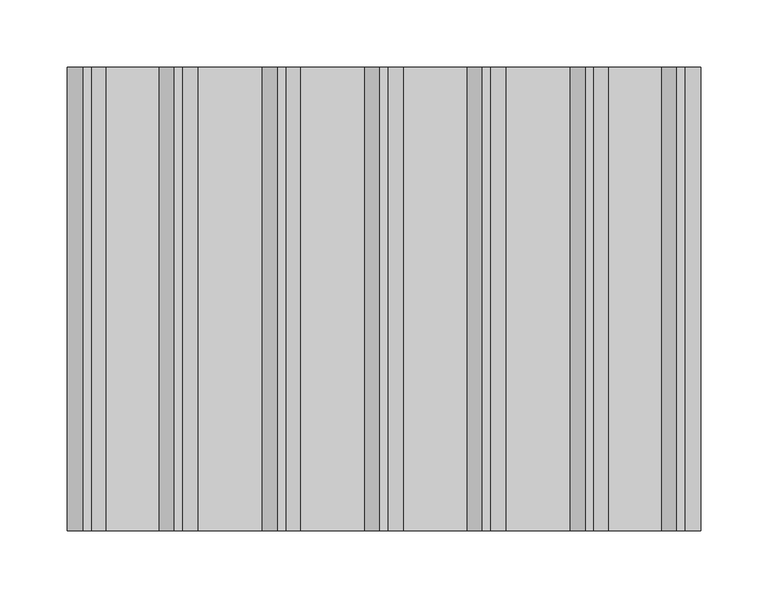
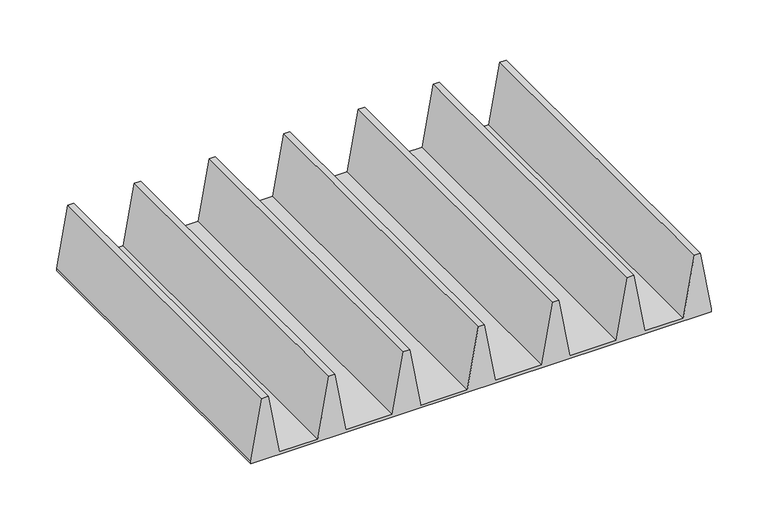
"""IFC4 building model written with IfcOpenShell, lengths in millimetres: furniture geometry."""

from ifc_helpers import new_model, si_unit, frame, origin, place, context, project, spatial, polyline, outline, extrude, source, transform, mapped, element, save


def furniture_da176630(model_context):
    return source(origin(), model_context, "Body", "SweptSolid", [
        extrude(outline(polyline([(783.43252, -234.8826517), (783.43252, 235.0173483), (786.4586919, 235.0173483), (850.10752, 223.7943426), (850.10752, 217.4443426), (786.4586919, 206.221337), (786.4586919, 166.865354), (850.10752, 155.6423483), (850.10752, 149.2923483), (786.4586919, 138.0693426), (786.4586919, 90.665354), (850.10752, 79.4423483), (850.10752, 73.0923483), (786.4586919, 61.8693426), (786.4586919, 14.465354), (850.10752, 3.2423483), (850.10752, -3.1076517), (786.4586919, -14.3306574), (786.4586919, -61.734646), (850.10752, -72.9576517), (850.10752, -79.3076517), (786.4586919, -90.5306574), (786.4586919, -137.934646), (850.10752, -149.1576517), (850.10752, -155.5076517), (786.4586919, -166.7306574), (786.4586919, -206.0866403), (850.10752, -217.309646), (850.10752, -223.659646), (786.4586919, -234.8826517), (783.43252, -234.8826517)])), frame((0.0, -171.831, 0.0), z_axis=(0.0, 1.0, 0.0), x_axis=(0.0, 0.0, 1.0)), (0.0, 0.0, 1.0), 343.662),
    ])


if __name__ == "__main__":
    model = new_model("IFC4")
    model_context = context("Model", 3, world=origin())
    ifc_project = project(units=[si_unit("LENGTHUNIT", "METRE", prefix="MILLI")], contexts=[model_context])
    site = spatial("IfcSite", under=ifc_project)
    building = spatial("IfcBuilding", under=site)
    placement = place(None, origin())
    furniture_shape = furniture_da176630(model_context)
    element("IfcFurniture", 1, ObjectType="HermanMiller_CoStruc_CO242_Subdivider Vane : 2 5/8\"Hx13 3/4\"D x 18 1/2\"W", at=placement, inside=building, context=model_context, shape_type="MappedRepresentation", body=[
        mapped(furniture_shape, transform((0.0, 0.0, 0.0), x_axis=(1.0, 0.0, 0.0), y_axis=(0.0, 1.0, 0.0), z_axis=(0.0, 0.0, 1.0))),
    ])
    save(model, "model.ifc")
